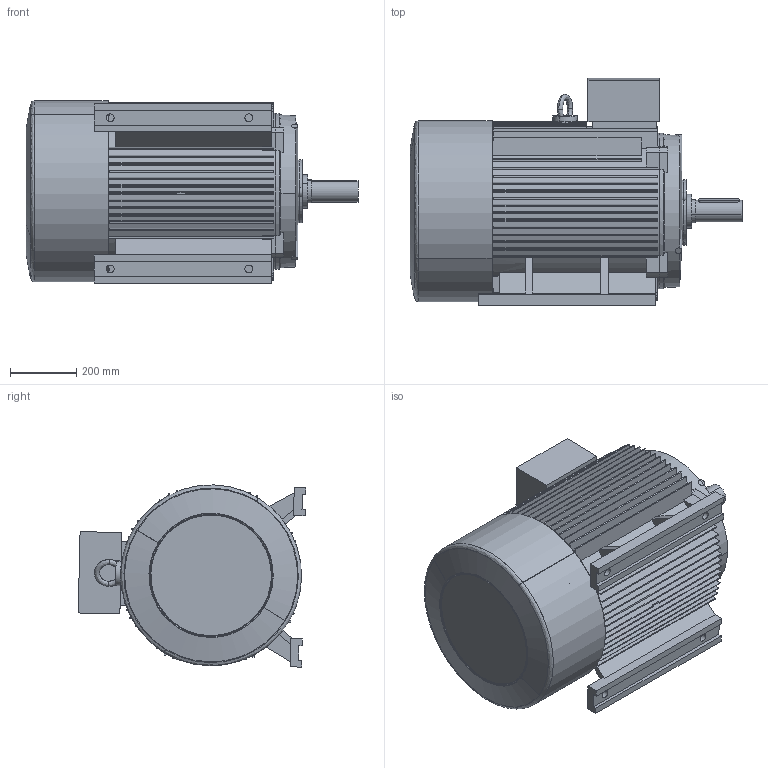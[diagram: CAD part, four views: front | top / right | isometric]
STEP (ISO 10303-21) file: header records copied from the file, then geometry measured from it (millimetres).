
FILE_DESCRIPTION (( 'STEP AP203' ), '1' );
FILE_NAME ('M3-280M-2p-FF-B3.STEP', '2019-07-09T10:21:06', ( '' ), ( '' ), 'SwSTEP 2.0', 'SolidWorks 2012', '' );
FILE_SCHEMA (( 'CONFIG_CONTROL_DESIGN' ));
Length unit declared in the file: millimetre
Products named in the file (8): Y2-280M+ｷﾎｨB3_-ｼ+､; M3-280M-2p-FF-B3; Y2-280S.M-2ﾍﾟ_-ｼ+､; Y2-280-2ﾃｦﾂ-ｩﾃ_-ｼ+､; Y2-280-2ﾀiﾍ_-ｼ+､; Y2-280ｦｾﾂ-ｩﾃ_-ｼ+､; 280ﾁｧ+ﾀ_-ｼ+､; Y2-250-4.6.8ú¼280-2Ã¦Íß¦ð-Ô©Ã_-¼+¤
Assembly tree (7 placements, depth 2):
  M3-280M-2p-FF-B3
    280ﾁｧ+ﾀ_-ｼ+､
    Y2-250-4.6.8ú¼280-2Ã¦Íß¦ð-Ô©Ã_-¼+¤
    Y2-280-2ﾀiﾍ_-ｼ+､
    Y2-280-2ﾃｦﾂ-ｩﾃ_-ｼ+､
    Y2-280S.M-2ﾍﾟ_-ｼ+､
    Y2-280ｦｾﾂ-ｩﾃ_-ｼ+､
    Y2-280M+ｷﾎｨB3_-ｼ+､
Bounding box: 1003.53 x 687.92 x 550.81 mm (x, y, z)
Volume: 37442856 mm3; surface area: 7050297.3 mm2
Topology: 10 solids, 10 shells, 791 faces, 2110 edges, 1398 vertices
Faces by surface type: plane 454, cylinder 285, cone 30, bspline 22
Entity records: 27596 total; most frequent: CARTESIAN_POINT 6378, DIRECTION 4334, ORIENTED_EDGE 4220, EDGE_CURVE 2110, AXIS2_PLACEMENT_3D 1530, VERTEX_POINT 1398, LINE 1274, VECTOR 1274
